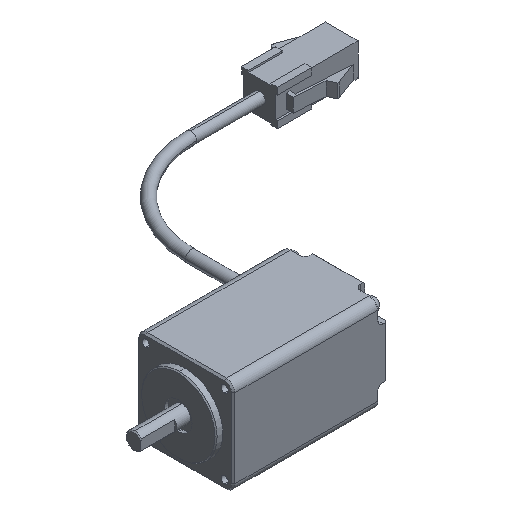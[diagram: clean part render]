
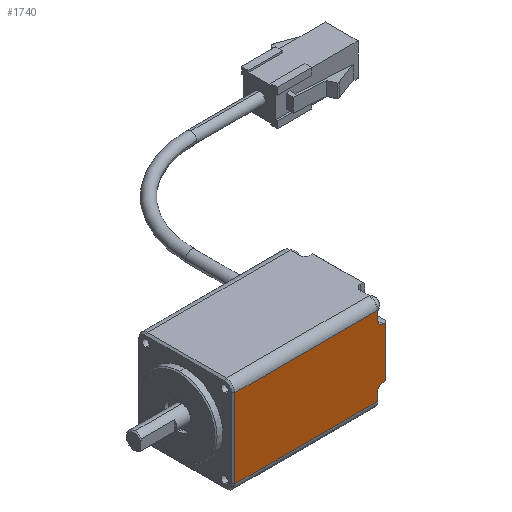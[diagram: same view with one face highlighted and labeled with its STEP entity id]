
A CAD part, isometric view. The second image highlights one B-rep face of the part: STEP entity #1740.
In plain terms, the highlighted planar face has unit normal (0, -1, 0) as drawn and (0, 1, 0) by its records, which use the part's own axes.
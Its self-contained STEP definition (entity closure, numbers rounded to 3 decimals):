
#88 = ORIENTED_EDGE ( 'NONE', *, *, #7245, .T. ) ;
#93 = DIRECTION ( 'NONE',  ( 0., 1., 0. ) ) ;
#100 = EDGE_CURVE ( 'NONE', #5599, #934, #1229, .T. ) ;
#104 = FACE_OUTER_BOUND ( 'NONE', #4555, .T. ) ;
#122 = VECTOR ( 'NONE', #1573, 1000. ) ;
#159 = ORIENTED_EDGE ( 'NONE', *, *, #4140, .F. ) ;
#226 = VERTEX_POINT ( 'NONE', #6599 ) ;
#321 = CARTESIAN_POINT ( 'NONE',  ( 71.251, -64.651, 23. ) ) ;
#506 = CARTESIAN_POINT ( 'NONE',  ( 48.251, -64.651, 44.5 ) ) ;
#809 = EDGE_CURVE ( 'NONE', #5499, #4038, #4976, .T. ) ;
#847 = EDGE_CURVE ( 'NONE', #1194, #226, #4766, .T. ) ;
#934 = VERTEX_POINT ( 'NONE', #3579 ) ;
#974 = DIRECTION ( 'NONE',  ( 0., 0., -1. ) ) ;
#1091 = DIRECTION ( 'NONE',  ( 0., 0., -1. ) ) ;
#1194 = VERTEX_POINT ( 'NONE', #6343 ) ;
#1229 = LINE ( 'NONE', #5007, #7908 ) ;
#1573 = DIRECTION ( 'NONE',  ( 1., 0., 0. ) ) ;
#1639 = CARTESIAN_POINT ( 'NONE',  ( 59.751, -64.651, 2.8 ) ) ;
#1678 = CARTESIAN_POINT ( 'NONE',  ( 59.751, -64.651, 0.5 ) ) ;
#1740 = ADVANCED_FACE ( 'NONE', ( #104 ), #7009, .T. ) ;
#1825 = VERTEX_POINT ( 'NONE', #3360 ) ;
#1884 = CARTESIAN_POINT ( 'NONE',  ( 52.451, -64.651, 0.5 ) ) ;
#1928 = VERTEX_POINT ( 'NONE', #7221 ) ;
#1929 = CIRCLE ( 'NONE', #4723, 1.5 ) ;
#1979 = CARTESIAN_POINT ( 'NONE',  ( 73.751, -64.651, 0. ) ) ;
#1980 = EDGE_CURVE ( 'NONE', #226, #1825, #3541, .T. ) ;
#2035 = ORIENTED_EDGE ( 'NONE', *, *, #809, .F. ) ;
#2046 = VERTEX_POINT ( 'NONE', #7311 ) ;
#2156 = CARTESIAN_POINT ( 'NONE',  ( 68.651, -64.651, 1.3 ) ) ;
#2259 = DIRECTION ( 'NONE',  ( 0., 0., -1. ) ) ;
#2658 = ORIENTED_EDGE ( 'NONE', *, *, #6208, .F. ) ;
#2777 = AXIS2_PLACEMENT_3D ( 'NONE', #1979, #93, #4521 ) ;
#2779 = DIRECTION ( 'NONE',  ( 0., 0., 1. ) ) ;
#2966 = CARTESIAN_POINT ( 'NONE',  ( 50.951, -64.651, 1.3 ) ) ;
#2982 = EDGE_CURVE ( 'NONE', #2046, #1928, #3732, .T. ) ;
#3117 = VECTOR ( 'NONE', #974, 1000. ) ;
#3316 = VECTOR ( 'NONE', #1091, 1000. ) ;
#3360 = CARTESIAN_POINT ( 'NONE',  ( 68.651, -64.651, 2.8 ) ) ;
#3387 = LINE ( 'NONE', #4835, #4475 ) ;
#3541 = LINE ( 'NONE', #1639, #5392 ) ;
#3550 = DIRECTION ( 'NONE',  ( 1., 0., 0. ) ) ;
#3579 = CARTESIAN_POINT ( 'NONE',  ( 52.451, -64.651, 1.3 ) ) ;
#3599 = DIRECTION ( 'NONE',  ( 0., 0., -1. ) ) ;
#3723 = LINE ( 'NONE', #1678, #3906 ) ;
#3732 = LINE ( 'NONE', #7993, #3316 ) ;
#3906 = VECTOR ( 'NONE', #6089, 1000. ) ;
#4038 = VERTEX_POINT ( 'NONE', #6605 ) ;
#4136 = EDGE_CURVE ( 'NONE', #6065, #1194, #3387, .T. ) ;
#4140 = EDGE_CURVE ( 'NONE', #4038, #934, #7618, .T. ) ;
#4230 = ORIENTED_EDGE ( 'NONE', *, *, #6242, .T. ) ;
#4423 = ORIENTED_EDGE ( 'NONE', *, *, #1980, .T. ) ;
#4475 = VECTOR ( 'NONE', #3550, 1000. ) ;
#4521 = DIRECTION ( 'NONE',  ( -1., 0., 0. ) ) ;
#4555 = EDGE_LOOP ( 'NONE', ( #2658, #6312, #7449, #4423, #88, #6081, #4230, #6270, #159, #2035 ) ) ;
#4723 = AXIS2_PLACEMENT_3D ( 'NONE', #2156, #6556, #2779 ) ;
#4766 = LINE ( 'NONE', #321, #3117 ) ;
#4835 = CARTESIAN_POINT ( 'NONE',  ( 73.751, -64.651, 44.5 ) ) ;
#4976 = LINE ( 'NONE', #5342, #122 ) ;
#5007 = CARTESIAN_POINT ( 'NONE',  ( 52.451, -64.651, 23. ) ) ;
#5342 = CARTESIAN_POINT ( 'NONE',  ( 48.699, -64.651, 2.8 ) ) ;
#5380 = AXIS2_PLACEMENT_3D ( 'NONE', #2966, #7367, #3599 ) ;
#5392 = VECTOR ( 'NONE', #6049, 1000. ) ;
#5499 = VERTEX_POINT ( 'NONE', #7452 ) ;
#5599 = VERTEX_POINT ( 'NONE', #1884 ) ;
#5674 = DIRECTION ( 'NONE',  ( 0., 0., 1. ) ) ;
#5764 = LINE ( 'NONE', #7292, #7455 ) ;
#6049 = DIRECTION ( 'NONE',  ( -1., 0., 0. ) ) ;
#6065 = VERTEX_POINT ( 'NONE', #506 ) ;
#6081 = ORIENTED_EDGE ( 'NONE', *, *, #2982, .T. ) ;
#6089 = DIRECTION ( 'NONE',  ( -1., 0., 0. ) ) ;
#6208 = EDGE_CURVE ( 'NONE', #6065, #5499, #5764, .T. ) ;
#6242 = EDGE_CURVE ( 'NONE', #1928, #5599, #3723, .T. ) ;
#6270 = ORIENTED_EDGE ( 'NONE', *, *, #100, .T. ) ;
#6312 = ORIENTED_EDGE ( 'NONE', *, *, #4136, .T. ) ;
#6343 = CARTESIAN_POINT ( 'NONE',  ( 71.251, -64.651, 44.5 ) ) ;
#6556 = DIRECTION ( 'NONE',  ( 0., -1., 0. ) ) ;
#6599 = CARTESIAN_POINT ( 'NONE',  ( 71.251, -64.651, 2.8 ) ) ;
#6605 = CARTESIAN_POINT ( 'NONE',  ( 50.951, -64.651, 2.8 ) ) ;
#7009 = PLANE ( 'NONE',  #2777 ) ;
#7221 = CARTESIAN_POINT ( 'NONE',  ( 67.151, -64.651, 0.5 ) ) ;
#7245 = EDGE_CURVE ( 'NONE', #1825, #2046, #1929, .T. ) ;
#7292 = CARTESIAN_POINT ( 'NONE',  ( 48.251, -64.651, 23. ) ) ;
#7311 = CARTESIAN_POINT ( 'NONE',  ( 67.151, -64.651, 1.3 ) ) ;
#7367 = DIRECTION ( 'NONE',  ( 0., 1., 0. ) ) ;
#7449 = ORIENTED_EDGE ( 'NONE', *, *, #847, .T. ) ;
#7452 = CARTESIAN_POINT ( 'NONE',  ( 48.251, -64.651, 2.8 ) ) ;
#7455 = VECTOR ( 'NONE', #2259, 1000. ) ;
#7618 = CIRCLE ( 'NONE', #5380, 1.5 ) ;
#7908 = VECTOR ( 'NONE', #5674, 1000. ) ;
#7993 = CARTESIAN_POINT ( 'NONE',  ( 67.151, -64.651, 23. ) ) ;
